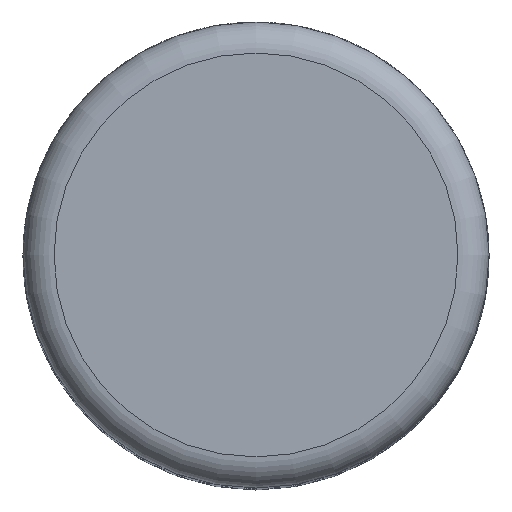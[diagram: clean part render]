
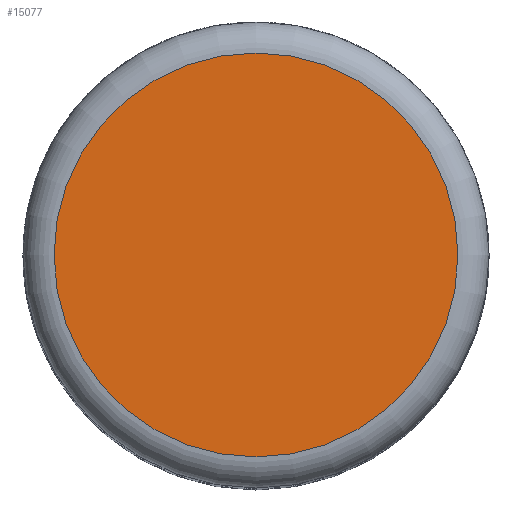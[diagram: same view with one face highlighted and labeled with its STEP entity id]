
A CAD part, top view. The second image highlights one B-rep face of the part: STEP entity #15077.
In plain terms, the highlighted planar face has unit normal (0, 0, 1).
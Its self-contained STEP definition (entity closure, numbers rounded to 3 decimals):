
#218 = TOROIDAL_SURFACE('',#219,5.2,0.8);
#219 = AXIS2_PLACEMENT_3D('',#220,#221,#222);
#220 = CARTESIAN_POINT('',(0.,0.,29.2));
#221 = DIRECTION('',(0.,0.,1.));
#222 = DIRECTION('',(1.,0.,-0.));
#7422 = VERTEX_POINT('',#7423);
#7423 = CARTESIAN_POINT('',(5.2,0.,30.));
#7445 = EDGE_CURVE('',#7422,#7422,#7446,.T.);
#7446 = SURFACE_CURVE('',#7447,(#7452,#7459),.PCURVE_S1.);
#7447 = CIRCLE('',#7448,5.2);
#7448 = AXIS2_PLACEMENT_3D('',#7449,#7450,#7451);
#7449 = CARTESIAN_POINT('',(0.,0.,30.));
#7450 = DIRECTION('',(0.,0.,1.));
#7451 = DIRECTION('',(1.,0.,-0.));
#7452 = PCURVE('',#218,#7453);
#7453 = DEFINITIONAL_REPRESENTATION('',(#7454),#7458);
#7454 = LINE('',#7455,#7456);
#7455 = CARTESIAN_POINT('',(0.,1.571));
#7456 = VECTOR('',#7457,1.);
#7457 = DIRECTION('',(1.,0.));
#7458 = ( GEOMETRIC_REPRESENTATION_CONTEXT(2) 
PARAMETRIC_REPRESENTATION_CONTEXT() REPRESENTATION_CONTEXT('2D SPACE',''
  ) );
#7459 = PCURVE('',#7460,#7465);
#7460 = PLANE('',#7461);
#7461 = AXIS2_PLACEMENT_3D('',#7462,#7463,#7464);
#7462 = CARTESIAN_POINT('',(0.,0.,30.));
#7463 = DIRECTION('',(0.,0.,1.));
#7464 = DIRECTION('',(1.,0.,-0.));
#7465 = DEFINITIONAL_REPRESENTATION('',(#7466),#7470);
#7466 = CIRCLE('',#7467,5.2);
#7467 = AXIS2_PLACEMENT_2D('',#7468,#7469);
#7468 = CARTESIAN_POINT('',(0.,0.));
#7469 = DIRECTION('',(1.,0.));
#7470 = ( GEOMETRIC_REPRESENTATION_CONTEXT(2) 
PARAMETRIC_REPRESENTATION_CONTEXT() REPRESENTATION_CONTEXT('2D SPACE',''
  ) );
#15077 = ADVANCED_FACE('',(#15078),#7460,.T.);
#15078 = FACE_BOUND('',#15079,.T.);
#15079 = EDGE_LOOP('',(#15080));
#15080 = ORIENTED_EDGE('',*,*,#7445,.T.);
